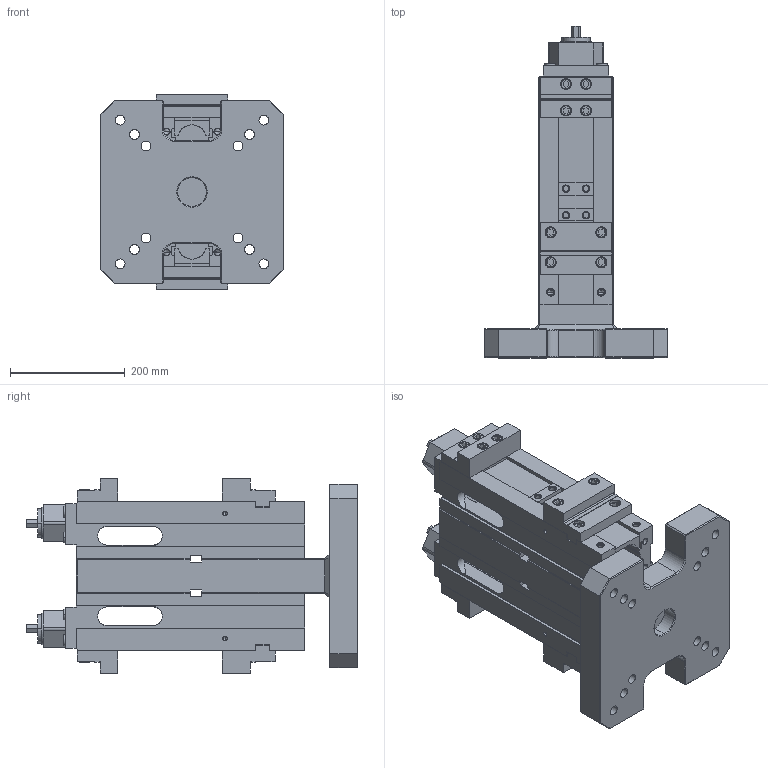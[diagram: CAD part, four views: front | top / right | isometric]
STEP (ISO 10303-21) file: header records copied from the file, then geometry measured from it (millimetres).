
FILE_DESCRIPTION((''),'2;1');
FILE_NAME('FG_WH_TOMB_00BKBNP002_ASM','2026-06-14T12:05:49',('Admin'),(''),'CREO PARAMETRIC BY PTC INC, 2025010','CREO PARAMETRIC BY PTC INC, 2025010','');
FILE_SCHEMA(('CONFIG_CONTROL_DESIGN'));
Length unit declared in the file: metre
Products named in the file (8): FG_WH_TOMB_00BKBNP002; FG_VC_HIPR_C0055NP001_3; DIN912-M12X25-12_9; DIN912-M12X45-12_9; FIX_JAW_LC_ASM; FG_VC_HIPR_C0054NP001_2; MOVABLE_JAW_LC_ASM; FG_WH_TOMB_00BKBNP002_ASM
Assembly tree (15 placements, depth 3):
  FG_WH_TOMB_00BKBNP002_ASM
    FG_WH_TOMB_00BKBNP002
    FIX_JAW_LC_ASM  x2
      FG_VC_HIPR_C0055NP001_3
      DIN912-M12X25-12_9
      DIN912-M12X45-12_9
    MOVABLE_JAW_LC_ASM  x2
      FG_VC_HIPR_C0054NP001_2
      DIN912-M12X25-12_9
      DIN912-M12X45-12_9
Bounding box: 320 x 577.2 x 339 mm (x, y, z)
Volume: 15264469.5 mm3; surface area: 1314980.3 mm2
Topology: 21 solids, 118 shells, 1535 faces, 4196 edges, 2791 vertices
Faces by surface type: plane 761, cylinder 556, cone 186, torus 32
Entity records: 40420 total; most frequent: CARTESIAN_POINT 10549, DIRECTION 6168, ORIENTED_EDGE 5940, EDGE_CURVE 3184, AXIS2_PLACEMENT_3D 2180, VERTEX_POINT 2171, VECTOR 1808, LINE 1808
